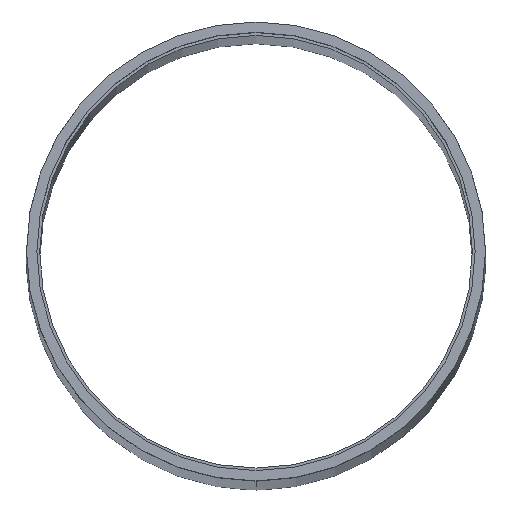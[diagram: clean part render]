
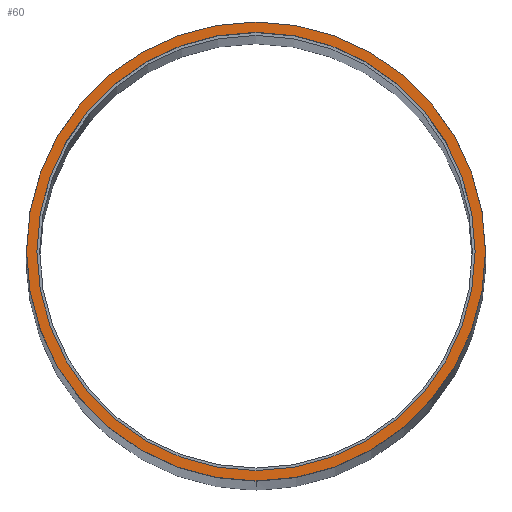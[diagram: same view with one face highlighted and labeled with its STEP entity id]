
A CAD part, top view. The second image highlights one B-rep face of the part: STEP entity #60.
In plain terms, the highlighted planar face has unit normal (0, 0, 1).
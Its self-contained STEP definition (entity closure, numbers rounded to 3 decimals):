
#54=PLANE('',#685);
#60=ADVANCED_FACE('',(#124,#91),#54,.T.);
#91=FACE_OUTER_BOUND('',#143,.F.);
#124=FACE_BOUND('',#142,.F.);
#142=EDGE_LOOP('',(#202,#203));
#143=EDGE_LOOP('',(#204,#205));
#202=ORIENTED_EDGE('',*,*,#523,.T.);
#203=ORIENTED_EDGE('',*,*,#522,.T.);
#204=ORIENTED_EDGE('',*,*,#495,.F.);
#205=ORIENTED_EDGE('',*,*,#494,.F.);
#494=EDGE_CURVE('',#659,#658,#584,.T.);
#495=EDGE_CURVE('',#658,#659,#585,.T.);
#522=EDGE_CURVE('',#631,#630,#592,.T.);
#523=EDGE_CURVE('',#630,#631,#593,.T.);
#584=CIRCLE('',#666,36.5);
#585=CIRCLE('',#667,36.5);
#592=CIRCLE('',#674,34.85);
#593=CIRCLE('',#675,34.85);
#630=VERTEX_POINT('',#881);
#631=VERTEX_POINT('',#882);
#658=VERTEX_POINT('',#909);
#659=VERTEX_POINT('',#910);
#666=AXIS2_PLACEMENT_3D('',#915,#722,#723);
#667=AXIS2_PLACEMENT_3D('',#916,#724,#725);
#674=AXIS2_PLACEMENT_3D('',#1163,#738,#739);
#675=AXIS2_PLACEMENT_3D('',#1164,#740,#741);
#685=AXIS2_PLACEMENT_3D('',#1444,#790,#791);
#722=DIRECTION('',(0.,0.,1.));
#723=DIRECTION('',(0.,-1.,0.));
#724=DIRECTION('',(0.,0.,1.));
#725=DIRECTION('',(0.,1.,0.));
#738=DIRECTION('',(0.,0.,1.));
#739=DIRECTION('',(0.,-1.,0.));
#740=DIRECTION('',(0.,0.,1.));
#741=DIRECTION('',(0.,1.,0.));
#790=DIRECTION('',(0.,0.,1.));
#791=DIRECTION('',(1.,0.,0.));
#881=CARTESIAN_POINT('',(284.375,454.102,390.164));
#882=CARTESIAN_POINT('',(284.375,384.402,390.164));
#909=CARTESIAN_POINT('',(284.375,455.752,390.164));
#910=CARTESIAN_POINT('',(284.375,382.752,390.164));
#915=CARTESIAN_POINT('',(284.375,419.252,390.164));
#916=CARTESIAN_POINT('',(284.375,419.252,390.164));
#1163=CARTESIAN_POINT('',(284.375,419.252,390.164));
#1164=CARTESIAN_POINT('',(284.375,419.252,390.164));
#1444=CARTESIAN_POINT('',(247.132,382.01,390.164));
